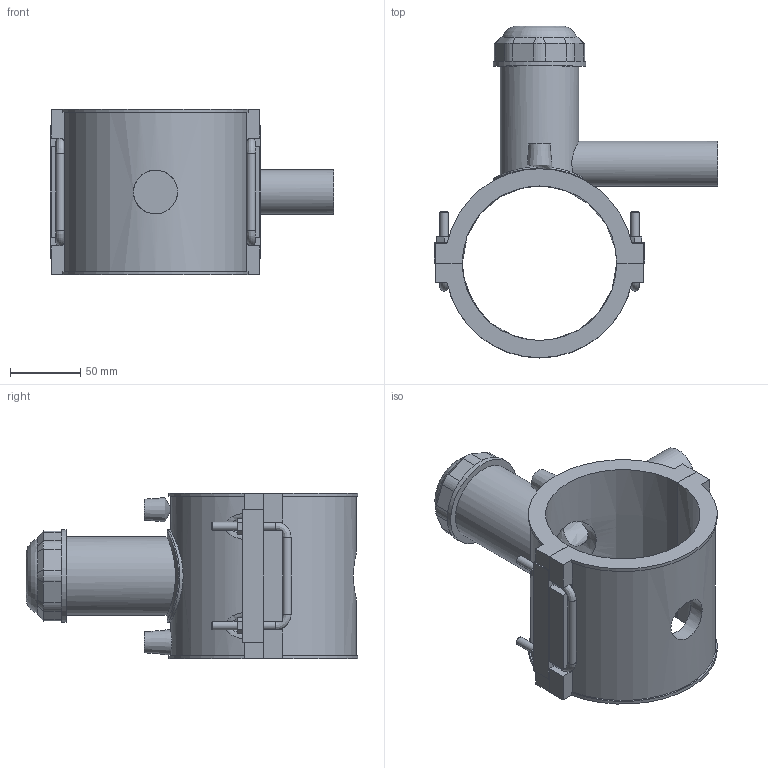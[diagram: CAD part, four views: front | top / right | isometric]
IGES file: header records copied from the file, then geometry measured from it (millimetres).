
Global section: file name: 496304110032.ipt; native system: Autodesk Inventor 2015; preprocessor: unknown; author: KIM; date: 20190124.130825; units: millimetre
Bounding box: 202 x 236.32 x 118 mm (x, y, z)
Volume: 704339.2 mm3; surface area: 173001.2 mm2
Topology: 2 solids, 2 shells, 188 faces, 490 edges, 319 vertices
Faces by surface type: plane 117, cylinder 32, revolution 20, cone 14, bspline 5
Full cylindrical faces by diameter (mm): 4 x2, 6 x10, 32 x1, 56.1 x1, 66 x1
